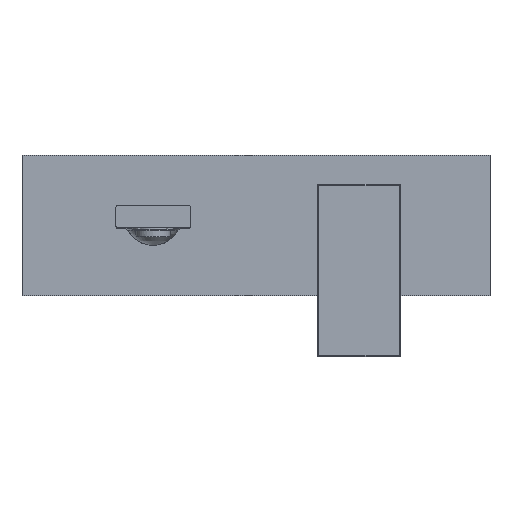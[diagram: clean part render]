
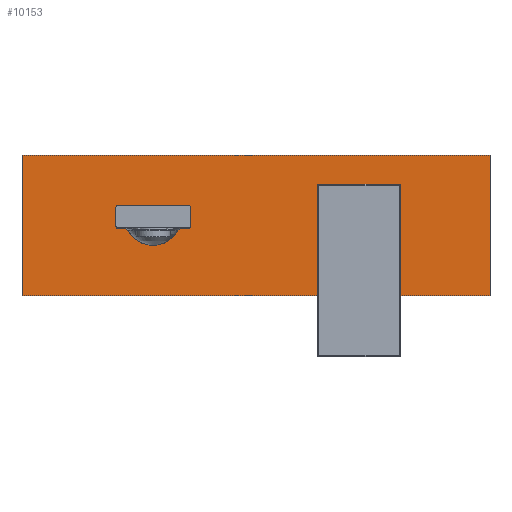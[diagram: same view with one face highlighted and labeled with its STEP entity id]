
A CAD part, top view. The second image highlights one B-rep face of the part: STEP entity #10153.
In plain terms, the highlighted planar face has unit normal (0, 0, 1).
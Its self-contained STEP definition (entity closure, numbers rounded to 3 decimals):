
#2593=DIRECTION('',(0.,-1.,0.));
#2594=VECTOR('',#2593,75.);
#2595=CARTESIAN_POINT('',(-182.,37.5,45.7));
#2596=LINE('',#2595,#2594);
#2597=DIRECTION('',(-1.,0.,0.));
#2598=VECTOR('',#2597,250.);
#2599=CARTESIAN_POINT('',(68.,37.5,45.7));
#2600=LINE('',#2599,#2598);
#2601=DIRECTION('',(0.,1.,0.));
#2602=VECTOR('',#2601,75.);
#2603=CARTESIAN_POINT('',(68.,-37.5,45.7));
#2604=LINE('',#2603,#2602);
#2605=DIRECTION('',(1.,0.,0.));
#2606=VECTOR('',#2605,250.);
#2607=CARTESIAN_POINT('',(-182.,-37.5,45.7));
#2608=LINE('',#2607,#2606);
#2609=CARTESIAN_POINT('',(-2.,0.,45.7));
#2610=DIRECTION('',(0.,0.,1.));
#2611=DIRECTION('',(1.,0.,0.));
#2612=AXIS2_PLACEMENT_3D('',#2609,#2610,#2611);
#2614=CARTESIAN_POINT('',(-2.,0.,45.7));
#2615=DIRECTION('',(0.,0.,1.));
#2616=DIRECTION('',(-1.,0.,0.));
#2617=AXIS2_PLACEMENT_3D('',#2614,#2615,#2616);
#2619=DIRECTION('',(0.,-1.,0.));
#2620=VECTOR('',#2619,9.);
#2621=CARTESIAN_POINT('',(-92.,9.,45.7));
#2622=LINE('',#2621,#2620);
#2623=CARTESIAN_POINT('',(-112.,4.5,45.7));
#2624=DIRECTION('',(0.,0.,-1.));
#2625=DIRECTION('',(0.956,0.293,0.));
#2626=AXIS2_PLACEMENT_3D('',#2623,#2624,#2625);
#2628=DIRECTION('',(1.,0.,0.));
#2629=VECTOR('',#2628,39.205);
#2630=CARTESIAN_POINT('',(-131.602,10.5,45.7));
#2631=LINE('',#2630,#2629);
#2632=CARTESIAN_POINT('',(-112.,4.5,45.7));
#2633=DIRECTION('',(0.,0.,-1.));
#2634=DIRECTION('',(-0.976,0.22,0.));
#2635=AXIS2_PLACEMENT_3D('',#2632,#2633,#2634);
#2637=DIRECTION('',(0.,1.,0.));
#2638=VECTOR('',#2637,9.);
#2639=CARTESIAN_POINT('',(-132.,0.,45.7));
#2640=LINE('',#2639,#2638);
#2641=CARTESIAN_POINT('',(-112.,4.5,45.7));
#2642=DIRECTION('',(0.,0.,-1.));
#2643=DIRECTION('',(-0.956,-0.293,0.));
#2644=AXIS2_PLACEMENT_3D('',#2641,#2642,#2643);
#2646=DIRECTION('',(-1.,0.,0.));
#2647=VECTOR('',#2646,4.922);
#2648=CARTESIAN_POINT('',(-126.68,-1.5,45.7));
#2649=LINE('',#2648,#2647);
#2650=DIRECTION('',(-0.819,0.574,0.));
#2651=VECTOR('',#2650,1.715);
#2652=CARTESIAN_POINT('',(-125.275,-2.484,45.7));
#2653=LINE('',#2652,#2651);
#2654=CARTESIAN_POINT('',(-125.275,-2.484,45.7));
#2655=CARTESIAN_POINT('',(-124.432,-4.086,45.7));
#2656=CARTESIAN_POINT('',(-122.159,-6.982,45.7));
#2657=CARTESIAN_POINT('',(-117.432,-9.837,45.7));
#2658=CARTESIAN_POINT('',(-113.811,-10.5,45.7));
#2659=CARTESIAN_POINT('',(-112.,-10.5,45.7));
#2661=CARTESIAN_POINT('',(-112.,-10.5,45.7));
#2662=CARTESIAN_POINT('',(-110.189,-10.5,45.7));
#2663=CARTESIAN_POINT('',(-106.568,-9.837,45.7));
#2664=CARTESIAN_POINT('',(-101.841,-6.982,45.7));
#2665=CARTESIAN_POINT('',(-99.568,-4.086,45.7));
#2666=CARTESIAN_POINT('',(-98.725,-2.484,45.7));
#2668=DIRECTION('',(-0.819,-0.574,0.));
#2669=VECTOR('',#2668,1.715);
#2670=CARTESIAN_POINT('',(-97.32,-1.5,45.7));
#2671=LINE('',#2670,#2669);
#2672=DIRECTION('',(-1.,0.,0.));
#2673=VECTOR('',#2672,4.922);
#2674=CARTESIAN_POINT('',(-92.398,-1.5,45.7));
#2675=LINE('',#2674,#2673);
#2676=CARTESIAN_POINT('',(-112.,4.5,45.7));
#2677=DIRECTION('',(0.,0.,-1.));
#2678=DIRECTION('',(0.976,-0.22,0.));
#2679=AXIS2_PLACEMENT_3D('',#2676,#2677,#2678);
#7659=CARTESIAN_POINT('',(-182.,-37.5,45.7));
#7660=CARTESIAN_POINT('',(68.,-37.5,45.7));
#7661=VERTEX_POINT('',#7659);
#7662=VERTEX_POINT('',#7660);
#7663=CARTESIAN_POINT('',(68.,37.5,45.7));
#7664=CARTESIAN_POINT('',(-182.,37.5,45.7));
#7665=VERTEX_POINT('',#7663);
#7666=VERTEX_POINT('',#7664);
#7675=CARTESIAN_POINT('',(18.25,0.,45.7));
#7676=CARTESIAN_POINT('',(-22.25,0.,45.7));
#7677=VERTEX_POINT('',#7675);
#7678=VERTEX_POINT('',#7676);
#7907=CARTESIAN_POINT('',(-92.,9.,45.7));
#7908=CARTESIAN_POINT('',(-92.,0.,45.7));
#7909=VERTEX_POINT('',#7907);
#7910=VERTEX_POINT('',#7908);
#7911=CARTESIAN_POINT('',(-92.398,-1.5,45.7));
#7912=CARTESIAN_POINT('',(-97.32,-1.5,45.7));
#7913=VERTEX_POINT('',#7911);
#7914=VERTEX_POINT('',#7912);
#7915=CARTESIAN_POINT('',(-126.68,-1.5,45.7));
#7916=CARTESIAN_POINT('',(-131.602,-1.5,45.7));
#7917=VERTEX_POINT('',#7915);
#7918=VERTEX_POINT('',#7916);
#7919=CARTESIAN_POINT('',(-132.,0.,45.7));
#7920=CARTESIAN_POINT('',(-132.,9.,45.7));
#7921=VERTEX_POINT('',#7919);
#7922=VERTEX_POINT('',#7920);
#7923=CARTESIAN_POINT('',(-131.602,10.5,45.7));
#7924=CARTESIAN_POINT('',(-92.398,10.5,45.7));
#7925=VERTEX_POINT('',#7923);
#7926=VERTEX_POINT('',#7924);
#7927=VERTEX_POINT('',#2661);
#7928=VERTEX_POINT('',#2666);
#7929=VERTEX_POINT('',#2654);
#10107=CARTESIAN_POINT('',(-57.,0.,45.7));
#10108=DIRECTION('',(0.,0.,1.));
#10109=DIRECTION('',(1.,0.,0.));
#10110=AXIS2_PLACEMENT_3D('',#10107,#10108,#10109);
#10111=PLANE('',#10110);
#10113=ORIENTED_EDGE('',*,*,#10112,.F.);
#10115=ORIENTED_EDGE('',*,*,#10114,.F.);
#10117=ORIENTED_EDGE('',*,*,#10116,.F.);
#10119=ORIENTED_EDGE('',*,*,#10118,.F.);
#10120=EDGE_LOOP('',(#10113,#10115,#10117,#10119));
#10121=FACE_OUTER_BOUND('',#10120,.F.);
#10123=ORIENTED_EDGE('',*,*,#10122,.T.);
#10125=ORIENTED_EDGE('',*,*,#10124,.T.);
#10126=EDGE_LOOP('',(#10123,#10125));
#10127=FACE_BOUND('',#10126,.F.);
#10129=ORIENTED_EDGE('',*,*,#10128,.F.);
#10131=ORIENTED_EDGE('',*,*,#10130,.F.);
#10133=ORIENTED_EDGE('',*,*,#10132,.F.);
#10135=ORIENTED_EDGE('',*,*,#10134,.F.);
#10137=ORIENTED_EDGE('',*,*,#10136,.F.);
#10139=ORIENTED_EDGE('',*,*,#10138,.F.);
#10140=ORIENTED_EDGE('',*,*,#10074,.F.);
#10142=ORIENTED_EDGE('',*,*,#10141,.F.);
#10144=ORIENTED_EDGE('',*,*,#10143,.T.);
#10146=ORIENTED_EDGE('',*,*,#10145,.T.);
#10147=ORIENTED_EDGE('',*,*,#10097,.F.);
#10148=ORIENTED_EDGE('',*,*,#10082,.F.);
#10150=ORIENTED_EDGE('',*,*,#10149,.F.);
#10151=EDGE_LOOP('',(#10129,#10131,#10133,#10135,#10137,#10139,#10140,#10142,
#10144,#10146,#10147,#10148,#10150));
#10152=FACE_BOUND('',#10151,.F.);
#10153=ADVANCED_FACE('',(#10121,#10127,#10152),#10111,.T.);
#2613=CIRCLE('',#2612,20.25);
#2618=CIRCLE('',#2617,20.25);
#2627=CIRCLE('',#2626,20.5);
#2636=CIRCLE('',#2635,20.5);
#2645=CIRCLE('',#2644,20.5);
#2660=B_SPLINE_CURVE_WITH_KNOTS('',3,(#2654,#2655,#2656,#2657,#2658,#2659),
.UNSPECIFIED.,.F.,.F.,(4,1,1,4),(0.,0.333,0.667,1.),
.UNSPECIFIED.);
#2667=B_SPLINE_CURVE_WITH_KNOTS('',3,(#2661,#2662,#2663,#2664,#2665,#2666),
.UNSPECIFIED.,.F.,.F.,(4,1,1,4),(0.,0.333,0.667,1.),
.UNSPECIFIED.);
#2680=CIRCLE('',#2679,20.5);
#10074=EDGE_CURVE('',#7917,#7918,#2649,.T.);
#10082=EDGE_CURVE('',#7913,#7914,#2675,.T.);
#10097=EDGE_CURVE('',#7914,#7928,#2671,.T.);
#10112=EDGE_CURVE('',#7666,#7661,#2596,.T.);
#10114=EDGE_CURVE('',#7665,#7666,#2600,.T.);
#10116=EDGE_CURVE('',#7662,#7665,#2604,.T.);
#10118=EDGE_CURVE('',#7661,#7662,#2608,.T.);
#10122=EDGE_CURVE('',#7677,#7678,#2613,.T.);
#10124=EDGE_CURVE('',#7678,#7677,#2618,.T.);
#10128=EDGE_CURVE('',#7909,#7910,#2622,.T.);
#10130=EDGE_CURVE('',#7926,#7909,#2627,.T.);
#10132=EDGE_CURVE('',#7925,#7926,#2631,.T.);
#10134=EDGE_CURVE('',#7922,#7925,#2636,.T.);
#10136=EDGE_CURVE('',#7921,#7922,#2640,.T.);
#10138=EDGE_CURVE('',#7918,#7921,#2645,.T.);
#10141=EDGE_CURVE('',#7929,#7917,#2653,.T.);
#10143=EDGE_CURVE('',#7929,#7927,#2660,.T.);
#10145=EDGE_CURVE('',#7927,#7928,#2667,.T.);
#10149=EDGE_CURVE('',#7910,#7913,#2680,.T.);
